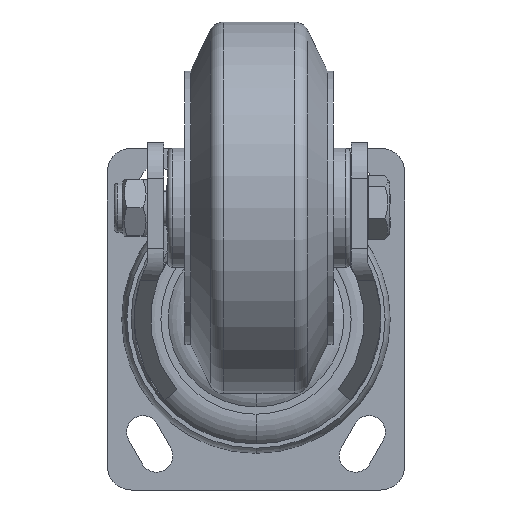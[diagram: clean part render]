
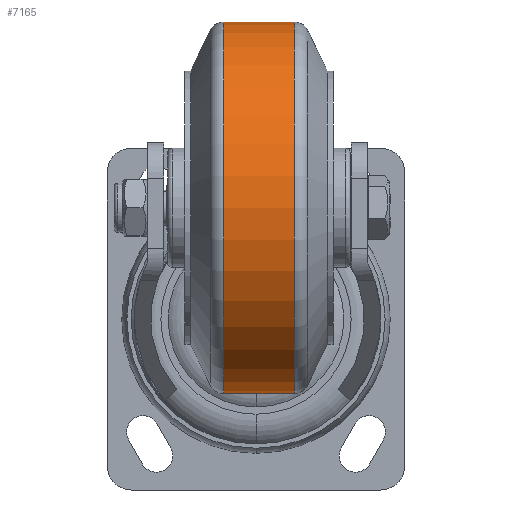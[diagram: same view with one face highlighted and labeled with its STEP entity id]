
A CAD part, front view. The second image highlights one B-rep face of the part: STEP entity #7165.
In plain terms, the highlighted cylindrical face has radius 62.5 mm (diameter 125 mm), a partial arc.
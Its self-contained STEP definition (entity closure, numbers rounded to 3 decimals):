
#6838 = EDGE_CURVE ( 'NONE', #6985, #6839, #13828, .T. ) ;
#6839 = VERTEX_POINT ( 'NONE', #13824 ) ;
#6842 = VERTEX_POINT ( 'NONE', #13730 ) ;
#6844 = EDGE_CURVE ( 'NONE', #6987, #6842, #13729, .T. ) ;
#6985 = VERTEX_POINT ( 'NONE', #13947 ) ;
#6987 = VERTEX_POINT ( 'NONE', #13946 ) ;
#7165 = ADVANCED_FACE ( 'NONE', ( #14385 ), #14384, .T. ) ;
#7166 = EDGE_LOOP ( 'NONE', ( #7167, #7168, #7170, #7171 ) ) ;
#7167 = ORIENTED_EDGE ( 'NONE', *, *, #6838, .F. ) ;
#7168 = ORIENTED_EDGE ( 'NONE', *, *, #7169, .T. ) ;
#7169 = EDGE_CURVE ( 'NONE', #6985, #6987, #14314, .T. ) ;
#7170 = ORIENTED_EDGE ( 'NONE', *, *, #6844, .T. ) ;
#7171 = ORIENTED_EDGE ( 'NONE', *, *, #7255, .F. ) ;
#7255 = EDGE_CURVE ( 'NONE', #6839, #6842, #14442, .T. ) ;
#13726 = DIRECTION ( 'NONE',  ( 0., -1., 0. ) ) ;
#13727 = VECTOR ( 'NONE', #13726, 1000. ) ;
#13728 = CARTESIAN_POINT ( 'NONE',  ( 0., 0., -62.5 ) ) ;
#13729 = LINE ( 'NONE', #13728, #13727 ) ;
#13730 = CARTESIAN_POINT ( 'NONE',  ( 0., 29.132, -62.5 ) ) ;
#13824 = CARTESIAN_POINT ( 'NONE',  ( 0., 29.132, 62.5 ) ) ;
#13825 = DIRECTION ( 'NONE',  ( 0., -1., 0. ) ) ;
#13826 = VECTOR ( 'NONE', #13825, 1000. ) ;
#13827 = CARTESIAN_POINT ( 'NONE',  ( 0., 0., 62.5 ) ) ;
#13828 = LINE ( 'NONE', #13827, #13826 ) ;
#13946 = CARTESIAN_POINT ( 'NONE',  ( 0., 52.868, -62.5 ) ) ;
#13947 = CARTESIAN_POINT ( 'NONE',  ( 0., 52.868, 62.5 ) ) ;
#14311 = DIRECTION ( 'NONE',  ( 0., 0., -1. ) ) ;
#14312 = DIRECTION ( 'NONE',  ( 0., -1., 0. ) ) ;
#14313 = AXIS2_PLACEMENT_3D ( 'NONE', #14379, #14312, #14311 ) ;
#14314 = CIRCLE ( 'NONE', #14313, 62.5 ) ;
#14379 = CARTESIAN_POINT ( 'NONE',  ( 0., 52.868, 0. ) ) ;
#14380 = DIRECTION ( 'NONE',  ( 0., 0., -1. ) ) ;
#14381 = DIRECTION ( 'NONE',  ( 0., -1., 0. ) ) ;
#14382 = CARTESIAN_POINT ( 'NONE',  ( 0., 0., 0. ) ) ;
#14383 = AXIS2_PLACEMENT_3D ( 'NONE', #14382, #14381, #14380 ) ;
#14384 = CYLINDRICAL_SURFACE ( 'NONE', #14383, 62.5 ) ;
#14385 = FACE_OUTER_BOUND ( 'NONE', #7166, .T. ) ;
#14442 = CIRCLE ( 'NONE', #14466, 62.5 ) ;
#14463 = DIRECTION ( 'NONE',  ( 0., 0., -1. ) ) ;
#14464 = DIRECTION ( 'NONE',  ( 0., -1., 0. ) ) ;
#14465 = CARTESIAN_POINT ( 'NONE',  ( 0., 29.132, 0. ) ) ;
#14466 = AXIS2_PLACEMENT_3D ( 'NONE', #14465, #14464, #14463 ) ;
